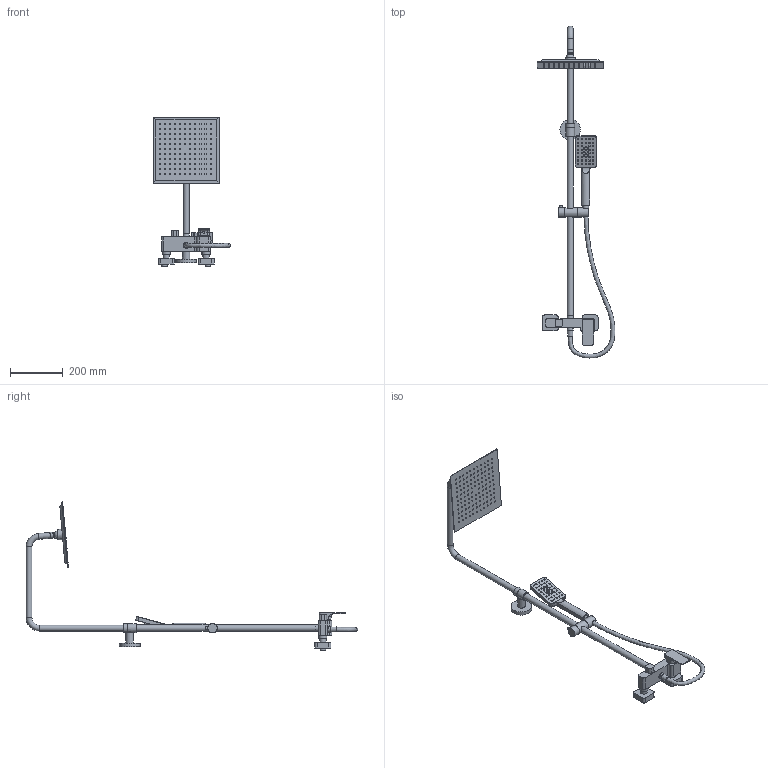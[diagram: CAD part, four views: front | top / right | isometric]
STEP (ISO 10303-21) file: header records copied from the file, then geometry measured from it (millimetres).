
FILE_DESCRIPTION(/* description */ (''),/* implementation_level */ '2;1');
FILE_NAME(/* name */ 'C:\Nextcloud\02_biblioteki_cad\Valvex\Projekt\PROJECTS\Eksport\ETAP 1\ponowny eksport\2455750\2455750.stp',/* time_stamp */ '2021-07-16T13:57:40+02:00',/* author */ ('Gabriela W.'),/* organization */ (''),/* preprocessor_version */ 'ST-DEVELOPER v18.1',/* originating_system */ 'Autodesk Inventor 2020',/* authorisation */ '');
FILE_SCHEMA (('AUTOMOTIVE_DESIGN { 1 0 10303 214 3 1 1 }'));
Length unit declared in the file: millimetre
Products named in the file (10): 2455750; 2455750_rura_1; 2455750_przylacze_katowe_1; 2455750_uchywt_sluchawki_1; 2455750_deszczownica_1; 2455750_bateria_1; 2455750_waz_1; 2455750_dysze_deszczownica_2; 2455850_dysze_sluchawka; 2455750_sluchawka_2
Assembly tree (9 placements, depth 2):
  2455750
    2455750_rura_1
    2455750_przylacze_katowe_1
    2455750_uchywt_sluchawki_1
    2455750_deszczownica_1
    2455750_bateria_1
    2455750_waz_1
    2455750_dysze_deszczownica_2
    2455850_dysze_sluchawka
    2455750_sluchawka_2
Bounding box: 293.9 x 1252.39 x 565.58 mm (x, y, z)
Volume: 2555410.2 mm3; surface area: 456845.1 mm2
Topology: 173 solids, 173 shells, 1147 faces, 2383 edges, 1607 vertices
Faces by surface type: plane 1047, cylinder 69, cone 14, bspline 11, torus 4, sphere 2
Full cylindrical faces by diameter (mm): 10 x1, 18 x1, 21 x9, 22 x4, 23 x1, 24 x5, 28 x1, 31 x2, 33 x2, 36 x3, 39 x1, 42 x1, 78 x1
Entity records: 32014 total; most frequent: CARTESIAN_POINT 7004, DIRECTION 4892, ORIENTED_EDGE 4770, EDGE_CURVE 2385, LINE 2090, VECTOR 2090, VERTEX_POINT 1607, AXIS2_PLACEMENT_3D 1401
